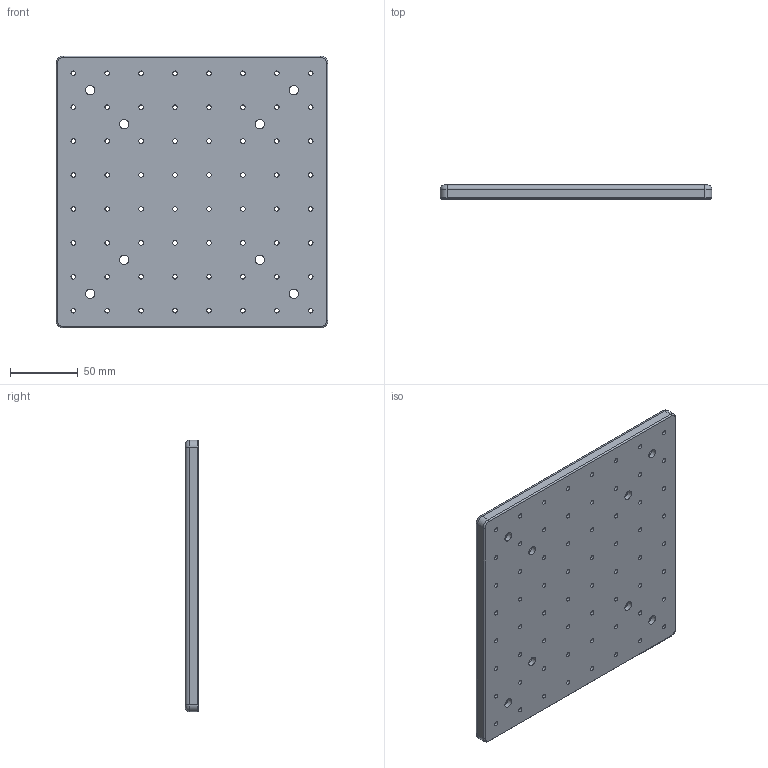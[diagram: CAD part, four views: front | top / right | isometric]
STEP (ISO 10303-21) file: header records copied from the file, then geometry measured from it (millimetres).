
FILE_DESCRIPTION (( 'STEP AP203' ), '1' );
FILE_NAME ('M-PAB-2020-10.step', '2017-01-10T01:14:58', ( '¦K¬P' ), ( '' ), 'SwSTEP 2.0', 'SolidWorks 2012', '' );
FILE_SCHEMA (( 'CONFIG_CONTROL_DESIGN' ));
Length unit declared in the file: millimetre
Products named in the file (1): M-PAB-2020-10
Bounding box: 200 x 10 x 200 mm (x, y, z)
Volume: 386647.5 mm3; surface area: 93835.3 mm2
Topology: 1 solids, 1 shells, 114 faces, 296 edges, 192 vertices
Faces by surface type: cylinder 92, plane 14, torus 8
Full cylindrical faces by diameter (mm): 3.3 x64, 7 x8, 11 x8
Entity records: 3549 total; most frequent: DIRECTION 638, CARTESIAN_POINT 523, ORIENTED_EDGE 432, EDGE_LOOP 346, AXIS2_PLACEMENT_3D 307, EDGE_CURVE 216, FACE_OUTER_BOUND 194, VERTEX_POINT 192
